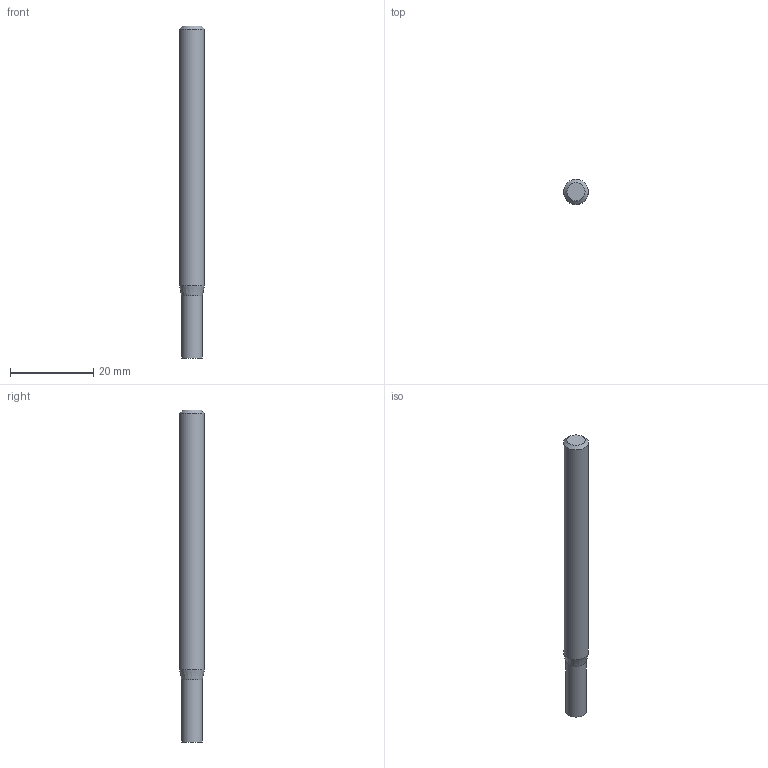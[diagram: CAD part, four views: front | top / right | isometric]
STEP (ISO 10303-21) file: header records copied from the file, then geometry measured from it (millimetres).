
FILE_DESCRIPTION((''),'2;1');
FILE_NAME('C:\Users\nsx150\AppData\Local\Temp\Mastercam 2021\W9Z147XDNF\TEMP.step','2021-04-08T14:45:49',(''),(''),'STEP Write','Mastercam 2021 ... CNC Software, Inc.','');
FILE_SCHEMA(('AUTOMOTIVE_DESIGN'));
Length unit declared in the file: millimetre
Products named in the file (1): None
Bounding box: 6 x 6 x 80 mm (x, y, z)
Volume: 2116.4 mm3; surface area: 1535.6 mm2
Topology: 2 solids, 2 shells, 8 faces, 10 edges, 6 vertices
Faces by surface type: plane 4, cylinder 2, cone 2
Full cylindrical faces by diameter (mm): 5 x1, 6 x1
Entity records: 190 total; most frequent: DIRECTION 32, CARTESIAN_POINT 22, AXIS2_PLACEMENT_3D 16, ORIENTED_EDGE 12, EDGE_LOOP 12, STYLED_ITEM 11, ADVANCED_FACE 8, VERTEX_POINT 6
